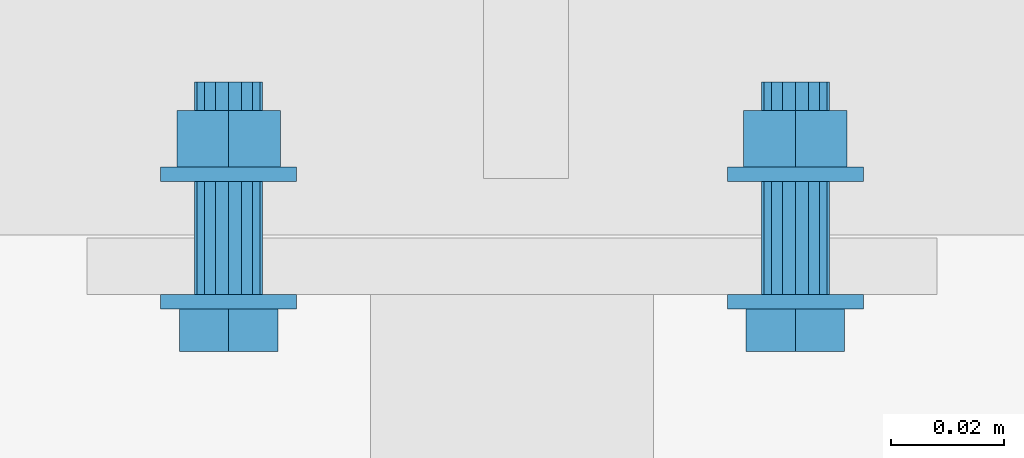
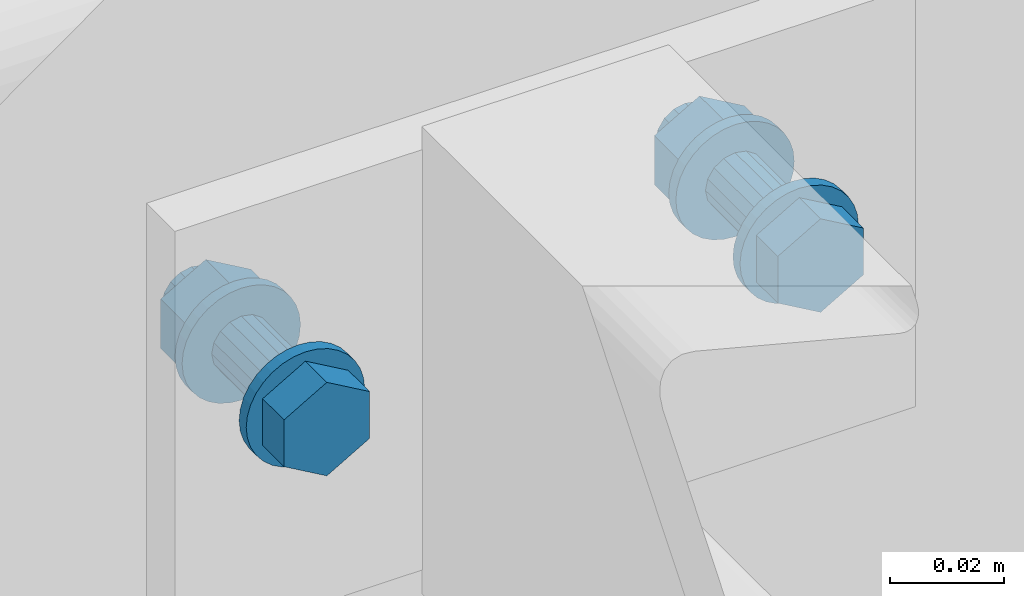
# One storey, part 350 of 821: 1 mechanical fastener.
"""IFC2X3 building model written with IfcOpenShell, lengths in millimetres."""

from ifc_helpers import new_model, entity, si_unit, converted_unit, origin_with_axes, place, context, project, spatial, faceted_brep, element, save


model = new_model("IFC2X3")

# Units and contexts
model_context = context("Model", 3, precision=1e-09, world=origin_with_axes())
ifc_project = project(units=[si_unit("LENGTHUNIT", "METRE", prefix="MILLI"), si_unit("AREAUNIT", "SQUARE_METRE"), si_unit("VOLUMEUNIT", "CUBIC_METRE"), converted_unit("PLANEANGLEUNIT", "DEGREE", entity("IfcPlaneAngleMeasure", 0.01745329), si_unit("PLANEANGLEUNIT", "RADIAN"), dimensions=[0, 0, 0, 0, 0, 0, 0])], contexts=[model_context])

# Site, building, storey
site_placement = place(None, origin_with_axes())
site = spatial("IfcSite", under=ifc_project, at=site_placement, Name="Cnopf'sche Kinderklinik", CompositionType="ELEMENT")
building_placement = place(site_placement, origin_with_axes())
building = spatial("IfcBuilding", under=site, at=building_placement, Name="Struktur 1", CompositionType="ELEMENT")
storey_placement = place(building_placement, origin_with_axes())
storey = spatial("IfcBuildingStorey", under=building, at=storey_placement, Name="Default Storey", CompositionType="ELEMENT", Elevation=0.0)

# Mechanical fastener
mechanical_fastener_placement = place(None, origin_with_axes())
element("IfcMechanicalFastener", 1, at=mechanical_fastener_placement, inside=storey, ObjectType="-", NominalDiameter=12.0, NominalLength=40.0, context=model_context, shape_type="Brep", body=[
    faceted_brep([(4489.713402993, 7293.736971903, 3747.0), (4489.713402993, 7296.236971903, 3747.0), (4489.943979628, 7296.236971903, 3744.658916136), (4489.943979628, 7293.736971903, 3744.658916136), (4490.626848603, 7296.236971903, 3742.407798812), (4490.626848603, 7293.736971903, 3742.407798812), (4491.735767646, 7296.236971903, 3740.333157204), (4491.735767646, 7293.736971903, 3740.333157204), (4493.228121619, 7296.236971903, 3738.514718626), (4493.228121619, 7293.736971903, 3738.514718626), (4495.046560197, 7296.236971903, 3737.022364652), (4495.046560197, 7293.736971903, 3737.022364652), (4497.121201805, 7296.236971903, 3735.91344561), (4497.121201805, 7293.736971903, 3735.91344561), (4499.372319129, 7296.236971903, 3735.230576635), (4499.372319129, 7293.736971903, 3735.230576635), (4501.713402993, 7296.236971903, 3735.0), (4501.713402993, 7293.736971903, 3735.0), (4504.054486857, 7296.236971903, 3735.230576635), (4504.054486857, 7293.736971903, 3735.230576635), (4506.305604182, 7296.236971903, 3735.91344561), (4506.305604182, 7293.736971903, 3735.91344561), (4508.380245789, 7296.236971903, 3737.022364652), (4508.380245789, 7293.736971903, 3737.022364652), (4510.198684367, 7296.236971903, 3738.514718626), (4510.198684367, 7293.736971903, 3738.514718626), (4511.691038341, 7296.236971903, 3740.333157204), (4511.691038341, 7293.736971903, 3740.333157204), (4512.799957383, 7296.236971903, 3742.407798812), (4512.799957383, 7293.736971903, 3742.407798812), (4513.482826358, 7296.236971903, 3744.658916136), (4513.482826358, 7293.736971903, 3744.658916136), (4513.713402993, 7296.236971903, 3747.0), (4513.713402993, 7293.736971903, 3747.0), (4513.482826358, 7296.236971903, 3749.341083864), (4513.482826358, 7293.736971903, 3749.341083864), (4512.799957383, 7296.236971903, 3751.592201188), (4512.799957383, 7293.736971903, 3751.592201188), (4511.691038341, 7296.236971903, 3753.666842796), (4511.691038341, 7293.736971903, 3753.666842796), (4510.198684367, 7296.236971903, 3755.485281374), (4510.198684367, 7293.736971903, 3755.485281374), (4508.380245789, 7296.236971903, 3756.977635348), (4508.380245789, 7293.736971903, 3756.977635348), (4506.305604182, 7296.236971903, 3758.08655439), (4506.305604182, 7293.736971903, 3758.08655439), (4504.054486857, 7296.236971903, 3758.769423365), (4504.054486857, 7293.736971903, 3758.769423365), (4501.713402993, 7296.236971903, 3759.0), (4501.713402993, 7293.736971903, 3759.0), (4499.372319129, 7296.236971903, 3758.769423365), (4499.372319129, 7293.736971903, 3758.769423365), (4497.121201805, 7296.236971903, 3758.08655439), (4497.121201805, 7293.736971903, 3758.08655439), (4495.046560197, 7296.236971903, 3756.977635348), (4495.046560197, 7293.736971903, 3756.977635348), (4493.228121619, 7296.236971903, 3755.485281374), (4493.228121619, 7293.736971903, 3755.485281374), (4491.735767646, 7296.236971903, 3753.666842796), (4491.735767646, 7293.736971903, 3753.666842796), (4490.626848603, 7296.236971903, 3751.592201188), (4490.626848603, 7293.736971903, 3751.592201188), (4489.943979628, 7296.236971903, 3749.341083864), (4489.943979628, 7293.736971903, 3749.341083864)], [[[0, 1, 2, 3]], [[3, 2, 4, 5]], [[5, 4, 6, 7]], [[7, 6, 8, 9]], [[9, 8, 10, 11]], [[11, 10, 12, 13]], [[13, 12, 14, 15]], [[15, 14, 16, 17]], [[17, 16, 18, 19]], [[19, 18, 20, 21]], [[21, 20, 22, 23]], [[23, 22, 24, 25]], [[25, 24, 26, 27]], [[27, 26, 28, 29]], [[29, 28, 30, 31]], [[31, 30, 32, 33]], [[33, 32, 34, 35]], [[35, 34, 36, 37]], [[37, 36, 38, 39]], [[39, 38, 40, 41]], [[41, 40, 42, 43]], [[43, 42, 44, 45]], [[45, 44, 46, 47]], [[47, 46, 48, 49]], [[49, 48, 50, 51]], [[51, 50, 52, 53]], [[53, 52, 54, 55]], [[55, 54, 56, 57]], [[57, 56, 58, 59]], [[59, 58, 60, 61]], [[61, 60, 62, 63]], [[63, 62, 1, 0]], [[0, 3, 5, 7, 9, 11, 13, 15, 17, 19, 21, 23, 25, 27, 29, 31, 33, 35, 37, 39, 41, 43, 45, 47, 49, 51, 53, 55, 57, 59, 61, 63]], [[1, 62, 60, 58, 56, 54, 52, 50, 48, 46, 44, 42, 40, 38, 36, 34, 32, 30, 28, 26, 24, 22, 20, 18, 16, 14, 12, 10, 8, 6, 4, 2]]]),
    faceted_brep([(4389.713402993, 7293.736971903, 3747.0), (4389.713402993, 7296.236971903, 3747.0), (4389.943979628, 7296.236971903, 3744.658916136), (4389.943979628, 7293.736971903, 3744.658916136), (4390.626848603, 7296.236971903, 3742.407798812), (4390.626848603, 7293.736971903, 3742.407798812), (4391.735767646, 7296.236971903, 3740.333157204), (4391.735767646, 7293.736971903, 3740.333157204), (4393.228121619, 7296.236971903, 3738.514718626), (4393.228121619, 7293.736971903, 3738.514718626), (4395.046560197, 7296.236971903, 3737.022364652), (4395.046560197, 7293.736971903, 3737.022364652), (4397.121201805, 7296.236971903, 3735.91344561), (4397.121201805, 7293.736971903, 3735.91344561), (4399.372319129, 7296.236971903, 3735.230576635), (4399.372319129, 7293.736971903, 3735.230576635), (4401.713402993, 7296.236971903, 3735.0), (4401.713402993, 7293.736971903, 3735.0), (4404.054486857, 7296.236971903, 3735.230576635), (4404.054486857, 7293.736971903, 3735.230576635), (4406.305604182, 7296.236971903, 3735.91344561), (4406.305604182, 7293.736971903, 3735.91344561), (4408.380245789, 7296.236971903, 3737.022364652), (4408.380245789, 7293.736971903, 3737.022364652), (4410.198684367, 7296.236971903, 3738.514718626), (4410.198684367, 7293.736971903, 3738.514718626), (4411.691038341, 7296.236971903, 3740.333157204), (4411.691038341, 7293.736971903, 3740.333157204), (4412.799957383, 7296.236971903, 3742.407798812), (4412.799957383, 7293.736971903, 3742.407798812), (4413.482826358, 7296.236971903, 3744.658916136), (4413.482826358, 7293.736971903, 3744.658916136), (4413.713402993, 7296.236971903, 3747.0), (4413.713402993, 7293.736971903, 3747.0), (4413.482826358, 7296.236971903, 3749.341083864), (4413.482826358, 7293.736971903, 3749.341083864), (4412.799957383, 7296.236971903, 3751.592201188), (4412.799957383, 7293.736971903, 3751.592201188), (4411.691038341, 7296.236971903, 3753.666842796), (4411.691038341, 7293.736971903, 3753.666842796), (4410.198684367, 7296.236971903, 3755.485281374), (4410.198684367, 7293.736971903, 3755.485281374), (4408.380245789, 7296.236971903, 3756.977635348), (4408.380245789, 7293.736971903, 3756.977635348), (4406.305604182, 7296.236971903, 3758.08655439), (4406.305604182, 7293.736971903, 3758.08655439), (4404.054486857, 7296.236971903, 3758.769423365), (4404.054486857, 7293.736971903, 3758.769423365), (4401.713402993, 7296.236971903, 3759.0), (4401.713402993, 7293.736971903, 3759.0), (4399.372319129, 7296.236971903, 3758.769423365), (4399.372319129, 7293.736971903, 3758.769423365), (4397.121201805, 7296.236971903, 3758.08655439), (4397.121201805, 7293.736971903, 3758.08655439), (4395.046560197, 7296.236971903, 3756.977635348), (4395.046560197, 7293.736971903, 3756.977635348), (4393.228121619, 7296.236971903, 3755.485281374), (4393.228121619, 7293.736971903, 3755.485281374), (4391.735767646, 7296.236971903, 3753.666842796), (4391.735767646, 7293.736971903, 3753.666842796), (4390.626848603, 7296.236971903, 3751.592201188), (4390.626848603, 7293.736971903, 3751.592201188), (4389.943979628, 7296.236971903, 3749.341083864), (4389.943979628, 7293.736971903, 3749.341083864)], [[[0, 1, 2, 3]], [[3, 2, 4, 5]], [[5, 4, 6, 7]], [[7, 6, 8, 9]], [[9, 8, 10, 11]], [[11, 10, 12, 13]], [[13, 12, 14, 15]], [[15, 14, 16, 17]], [[17, 16, 18, 19]], [[19, 18, 20, 21]], [[21, 20, 22, 23]], [[23, 22, 24, 25]], [[25, 24, 26, 27]], [[27, 26, 28, 29]], [[29, 28, 30, 31]], [[31, 30, 32, 33]], [[33, 32, 34, 35]], [[35, 34, 36, 37]], [[37, 36, 38, 39]], [[39, 38, 40, 41]], [[41, 40, 42, 43]], [[43, 42, 44, 45]], [[45, 44, 46, 47]], [[47, 46, 48, 49]], [[49, 48, 50, 51]], [[51, 50, 52, 53]], [[53, 52, 54, 55]], [[55, 54, 56, 57]], [[57, 56, 58, 59]], [[59, 58, 60, 61]], [[61, 60, 62, 63]], [[63, 62, 1, 0]], [[0, 3, 5, 7, 9, 11, 13, 15, 17, 19, 21, 23, 25, 27, 29, 31, 33, 35, 37, 39, 41, 43, 45, 47, 49, 51, 53, 55, 57, 59, 61, 63]], [[1, 62, 60, 58, 56, 54, 52, 50, 48, 46, 44, 42, 40, 38, 36, 34, 32, 30, 28, 26, 24, 22, 20, 18, 16, 14, 12, 10, 8, 6, 4, 2]]]),
    faceted_brep([(4510.386647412, 7293.736971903, 3741.9925), (4510.386647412, 7286.236971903, 3741.9925), (4501.713402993, 7286.236971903, 3736.985), (4501.713402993, 7293.736971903, 3736.985), (4493.040158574, 7286.236971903, 3741.9925), (4493.040158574, 7293.736971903, 3741.9925), (4493.040158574, 7286.236971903, 3752.0075), (4493.040158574, 7293.736971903, 3752.0075), (4501.713402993, 7286.236971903, 3757.015), (4501.713402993, 7293.736971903, 3757.015), (4510.386647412, 7286.236971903, 3752.0075), (4510.386647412, 7293.736971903, 3752.0075)], [[[0, 1, 2, 3]], [[3, 2, 4, 5]], [[5, 4, 6, 7]], [[7, 6, 8, 9]], [[9, 8, 10, 11]], [[11, 10, 1, 0]], [[4, 2, 1, 10, 8, 6]], [[0, 3, 5, 7, 9, 11]]]),
    faceted_brep([(4410.386647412, 7293.736971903, 3741.9925), (4410.386647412, 7286.236971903, 3741.9925), (4401.713402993, 7286.236971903, 3736.985), (4401.713402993, 7293.736971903, 3736.985), (4393.040158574, 7286.236971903, 3741.9925), (4393.040158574, 7293.736971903, 3741.9925), (4393.040158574, 7286.236971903, 3752.0075), (4393.040158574, 7293.736971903, 3752.0075), (4401.713402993, 7286.236971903, 3757.015), (4401.713402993, 7293.736971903, 3757.015), (4410.386647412, 7286.236971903, 3752.0075), (4410.386647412, 7293.736971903, 3752.0075)], [[[0, 1, 2, 3]], [[3, 2, 4, 5]], [[5, 4, 6, 7]], [[7, 6, 8, 9]], [[9, 8, 10, 11]], [[11, 10, 1, 0]], [[4, 2, 1, 10, 8, 6]], [[0, 3, 5, 7, 9, 11]]]),
    faceted_brep([(4495.713402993, 7296.236971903, 3747.0), (4495.713402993, 7316.236971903, 3747.0), (4496.170125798, 7316.236971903, 3744.703899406), (4496.170125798, 7296.236971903, 3744.703899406), (4497.470762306, 7316.236971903, 3742.757359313), (4497.470762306, 7296.236971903, 3742.757359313), (4499.417302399, 7316.236971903, 3741.456722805), (4499.417302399, 7296.236971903, 3741.456722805), (4501.713402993, 7316.236971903, 3741.0), (4501.713402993, 7296.236971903, 3741.0), (4504.009503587, 7316.236971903, 3741.456722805), (4504.009503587, 7296.236971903, 3741.456722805), (4505.95604368, 7316.236971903, 3742.757359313), (4505.95604368, 7296.236971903, 3742.757359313), (4507.256680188, 7316.236971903, 3744.703899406), (4507.256680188, 7296.236971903, 3744.703899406), (4507.713402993, 7316.236971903, 3747.0), (4507.713402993, 7296.236971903, 3747.0), (4507.256680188, 7316.236971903, 3749.296100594), (4507.256680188, 7296.236971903, 3749.296100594), (4505.95604368, 7316.236971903, 3751.242640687), (4505.95604368, 7296.236971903, 3751.242640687), (4504.009503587, 7316.236971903, 3752.543277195), (4504.009503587, 7296.236971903, 3752.543277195), (4501.713402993, 7316.236971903, 3753.0), (4501.713402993, 7296.236971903, 3753.0), (4499.417302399, 7316.236971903, 3752.543277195), (4499.417302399, 7296.236971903, 3752.543277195), (4497.470762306, 7316.236971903, 3751.242640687), (4497.470762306, 7296.236971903, 3751.242640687), (4496.170125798, 7316.236971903, 3749.296100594), (4496.170125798, 7296.236971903, 3749.296100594)], [[[0, 1, 2, 3]], [[3, 2, 4, 5]], [[5, 4, 6, 7]], [[7, 6, 8, 9]], [[9, 8, 10, 11]], [[11, 10, 12, 13]], [[13, 12, 14, 15]], [[15, 14, 16, 17]], [[17, 16, 18, 19]], [[19, 18, 20, 21]], [[21, 20, 22, 23]], [[23, 22, 24, 25]], [[25, 24, 26, 27]], [[27, 26, 28, 29]], [[29, 28, 30, 31]], [[31, 30, 1, 0]], [[0, 3, 5, 7, 9, 11, 13, 15, 17, 19, 21, 23, 25, 27, 29, 31]], [[1, 30, 28, 26, 24, 22, 20, 18, 16, 14, 12, 10, 8, 6, 4, 2]]]),
    faceted_brep([(4395.713402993, 7296.236971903, 3747.0), (4395.713402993, 7316.236971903, 3747.0), (4396.170125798, 7316.236971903, 3744.703899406), (4396.170125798, 7296.236971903, 3744.703899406), (4397.470762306, 7316.236971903, 3742.757359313), (4397.470762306, 7296.236971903, 3742.757359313), (4399.417302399, 7316.236971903, 3741.456722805), (4399.417302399, 7296.236971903, 3741.456722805), (4401.713402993, 7316.236971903, 3741.0), (4401.713402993, 7296.236971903, 3741.0), (4404.009503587, 7316.236971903, 3741.456722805), (4404.009503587, 7296.236971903, 3741.456722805), (4405.95604368, 7316.236971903, 3742.757359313), (4405.95604368, 7296.236971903, 3742.757359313), (4407.256680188, 7316.236971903, 3744.703899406), (4407.256680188, 7296.236971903, 3744.703899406), (4407.713402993, 7316.236971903, 3747.0), (4407.713402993, 7296.236971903, 3747.0), (4407.256680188, 7316.236971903, 3749.296100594), (4407.256680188, 7296.236971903, 3749.296100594), (4405.95604368, 7316.236971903, 3751.242640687), (4405.95604368, 7296.236971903, 3751.242640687), (4404.009503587, 7316.236971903, 3752.543277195), (4404.009503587, 7296.236971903, 3752.543277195), (4401.713402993, 7316.236971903, 3753.0), (4401.713402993, 7296.236971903, 3753.0), (4399.417302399, 7316.236971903, 3752.543277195), (4399.417302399, 7296.236971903, 3752.543277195), (4397.470762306, 7316.236971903, 3751.242640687), (4397.470762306, 7296.236971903, 3751.242640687), (4396.170125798, 7316.236971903, 3749.296100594), (4396.170125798, 7296.236971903, 3749.296100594)], [[[0, 1, 2, 3]], [[3, 2, 4, 5]], [[5, 4, 6, 7]], [[7, 6, 8, 9]], [[9, 8, 10, 11]], [[11, 10, 12, 13]], [[13, 12, 14, 15]], [[15, 14, 16, 17]], [[17, 16, 18, 19]], [[19, 18, 20, 21]], [[21, 20, 22, 23]], [[23, 22, 24, 25]], [[25, 24, 26, 27]], [[27, 26, 28, 29]], [[29, 28, 30, 31]], [[31, 30, 1, 0]], [[0, 3, 5, 7, 9, 11, 13, 15, 17, 19, 21, 23, 25, 27, 29, 31]], [[1, 30, 28, 26, 24, 22, 20, 18, 16, 14, 12, 10, 8, 6, 4, 2]]]),
    faceted_brep([(4489.713402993, 7316.236971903, 3747.0), (4489.713402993, 7318.736971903, 3747.0), (4489.943979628, 7318.736971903, 3744.658916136), (4489.943979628, 7316.236971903, 3744.658916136), (4490.626848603, 7318.736971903, 3742.407798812), (4490.626848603, 7316.236971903, 3742.407798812), (4491.735767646, 7318.736971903, 3740.333157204), (4491.735767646, 7316.236971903, 3740.333157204), (4493.228121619, 7318.736971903, 3738.514718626), (4493.228121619, 7316.236971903, 3738.514718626), (4495.046560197, 7318.736971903, 3737.022364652), (4495.046560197, 7316.236971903, 3737.022364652), (4497.121201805, 7318.736971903, 3735.91344561), (4497.121201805, 7316.236971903, 3735.91344561), (4499.372319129, 7318.736971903, 3735.230576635), (4499.372319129, 7316.236971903, 3735.230576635), (4501.713402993, 7318.736971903, 3735.0), (4501.713402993, 7316.236971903, 3735.0), (4504.054486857, 7318.736971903, 3735.230576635), (4504.054486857, 7316.236971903, 3735.230576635), (4506.305604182, 7318.736971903, 3735.91344561), (4506.305604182, 7316.236971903, 3735.91344561), (4508.380245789, 7318.736971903, 3737.022364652), (4508.380245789, 7316.236971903, 3737.022364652), (4510.198684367, 7318.736971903, 3738.514718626), (4510.198684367, 7316.236971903, 3738.514718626), (4511.691038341, 7318.736971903, 3740.333157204), (4511.691038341, 7316.236971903, 3740.333157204), (4512.799957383, 7318.736971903, 3742.407798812), (4512.799957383, 7316.236971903, 3742.407798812), (4513.482826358, 7318.736971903, 3744.658916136), (4513.482826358, 7316.236971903, 3744.658916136), (4513.713402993, 7318.736971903, 3747.0), (4513.713402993, 7316.236971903, 3747.0), (4513.482826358, 7318.736971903, 3749.341083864), (4513.482826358, 7316.236971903, 3749.341083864), (4512.799957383, 7318.736971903, 3751.592201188), (4512.799957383, 7316.236971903, 3751.592201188), (4511.691038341, 7318.736971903, 3753.666842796), (4511.691038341, 7316.236971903, 3753.666842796), (4510.198684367, 7318.736971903, 3755.485281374), (4510.198684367, 7316.236971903, 3755.485281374), (4508.380245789, 7318.736971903, 3756.977635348), (4508.380245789, 7316.236971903, 3756.977635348), (4506.305604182, 7318.736971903, 3758.08655439), (4506.305604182, 7316.236971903, 3758.08655439), (4504.054486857, 7318.736971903, 3758.769423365), (4504.054486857, 7316.236971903, 3758.769423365), (4501.713402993, 7318.736971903, 3759.0), (4501.713402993, 7316.236971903, 3759.0), (4499.372319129, 7318.736971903, 3758.769423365), (4499.372319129, 7316.236971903, 3758.769423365), (4497.121201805, 7318.736971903, 3758.08655439), (4497.121201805, 7316.236971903, 3758.08655439), (4495.046560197, 7318.736971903, 3756.977635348), (4495.046560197, 7316.236971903, 3756.977635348), (4493.228121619, 7318.736971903, 3755.485281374), (4493.228121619, 7316.236971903, 3755.485281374), (4491.735767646, 7318.736971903, 3753.666842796), (4491.735767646, 7316.236971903, 3753.666842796), (4490.626848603, 7318.736971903, 3751.592201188), (4490.626848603, 7316.236971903, 3751.592201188), (4489.943979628, 7318.736971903, 3749.341083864), (4489.943979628, 7316.236971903, 3749.341083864)], [[[0, 1, 2, 3]], [[3, 2, 4, 5]], [[5, 4, 6, 7]], [[7, 6, 8, 9]], [[9, 8, 10, 11]], [[11, 10, 12, 13]], [[13, 12, 14, 15]], [[15, 14, 16, 17]], [[17, 16, 18, 19]], [[19, 18, 20, 21]], [[21, 20, 22, 23]], [[23, 22, 24, 25]], [[25, 24, 26, 27]], [[27, 26, 28, 29]], [[29, 28, 30, 31]], [[31, 30, 32, 33]], [[33, 32, 34, 35]], [[35, 34, 36, 37]], [[37, 36, 38, 39]], [[39, 38, 40, 41]], [[41, 40, 42, 43]], [[43, 42, 44, 45]], [[45, 44, 46, 47]], [[47, 46, 48, 49]], [[49, 48, 50, 51]], [[51, 50, 52, 53]], [[53, 52, 54, 55]], [[55, 54, 56, 57]], [[57, 56, 58, 59]], [[59, 58, 60, 61]], [[61, 60, 62, 63]], [[63, 62, 1, 0]], [[0, 3, 5, 7, 9, 11, 13, 15, 17, 19, 21, 23, 25, 27, 29, 31, 33, 35, 37, 39, 41, 43, 45, 47, 49, 51, 53, 55, 57, 59, 61, 63]], [[1, 62, 60, 58, 56, 54, 52, 50, 48, 46, 44, 42, 40, 38, 36, 34, 32, 30, 28, 26, 24, 22, 20, 18, 16, 14, 12, 10, 8, 6, 4, 2]]]),
    faceted_brep([(4389.713402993, 7316.236971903, 3747.0), (4389.713402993, 7318.736971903, 3747.0), (4389.943979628, 7318.736971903, 3744.658916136), (4389.943979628, 7316.236971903, 3744.658916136), (4390.626848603, 7318.736971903, 3742.407798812), (4390.626848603, 7316.236971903, 3742.407798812), (4391.735767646, 7318.736971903, 3740.333157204), (4391.735767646, 7316.236971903, 3740.333157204), (4393.228121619, 7318.736971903, 3738.514718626), (4393.228121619, 7316.236971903, 3738.514718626), (4395.046560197, 7318.736971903, 3737.022364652), (4395.046560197, 7316.236971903, 3737.022364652), (4397.121201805, 7318.736971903, 3735.91344561), (4397.121201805, 7316.236971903, 3735.91344561), (4399.372319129, 7318.736971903, 3735.230576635), (4399.372319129, 7316.236971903, 3735.230576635), (4401.713402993, 7318.736971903, 3735.0), (4401.713402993, 7316.236971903, 3735.0), (4404.054486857, 7318.736971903, 3735.230576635), (4404.054486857, 7316.236971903, 3735.230576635), (4406.305604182, 7318.736971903, 3735.91344561), (4406.305604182, 7316.236971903, 3735.91344561), (4408.380245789, 7318.736971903, 3737.022364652), (4408.380245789, 7316.236971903, 3737.022364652), (4410.198684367, 7318.736971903, 3738.514718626), (4410.198684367, 7316.236971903, 3738.514718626), (4411.691038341, 7318.736971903, 3740.333157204), (4411.691038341, 7316.236971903, 3740.333157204), (4412.799957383, 7318.736971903, 3742.407798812), (4412.799957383, 7316.236971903, 3742.407798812), (4413.482826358, 7318.736971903, 3744.658916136), (4413.482826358, 7316.236971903, 3744.658916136), (4413.713402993, 7318.736971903, 3747.0), (4413.713402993, 7316.236971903, 3747.0), (4413.482826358, 7318.736971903, 3749.341083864), (4413.482826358, 7316.236971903, 3749.341083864), (4412.799957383, 7318.736971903, 3751.592201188), (4412.799957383, 7316.236971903, 3751.592201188), (4411.691038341, 7318.736971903, 3753.666842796), (4411.691038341, 7316.236971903, 3753.666842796), (4410.198684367, 7318.736971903, 3755.485281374), (4410.198684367, 7316.236971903, 3755.485281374), (4408.380245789, 7318.736971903, 3756.977635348), (4408.380245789, 7316.236971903, 3756.977635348), (4406.305604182, 7318.736971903, 3758.08655439), (4406.305604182, 7316.236971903, 3758.08655439), (4404.054486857, 7318.736971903, 3758.769423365), (4404.054486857, 7316.236971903, 3758.769423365), (4401.713402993, 7318.736971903, 3759.0), (4401.713402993, 7316.236971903, 3759.0), (4399.372319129, 7318.736971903, 3758.769423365), (4399.372319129, 7316.236971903, 3758.769423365), (4397.121201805, 7318.736971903, 3758.08655439), (4397.121201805, 7316.236971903, 3758.08655439), (4395.046560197, 7318.736971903, 3756.977635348), (4395.046560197, 7316.236971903, 3756.977635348), (4393.228121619, 7318.736971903, 3755.485281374), (4393.228121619, 7316.236971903, 3755.485281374), (4391.735767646, 7318.736971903, 3753.666842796), (4391.735767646, 7316.236971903, 3753.666842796), (4390.626848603, 7318.736971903, 3751.592201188), (4390.626848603, 7316.236971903, 3751.592201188), (4389.943979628, 7318.736971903, 3749.341083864), (4389.943979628, 7316.236971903, 3749.341083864)], [[[0, 1, 2, 3]], [[3, 2, 4, 5]], [[5, 4, 6, 7]], [[7, 6, 8, 9]], [[9, 8, 10, 11]], [[11, 10, 12, 13]], [[13, 12, 14, 15]], [[15, 14, 16, 17]], [[17, 16, 18, 19]], [[19, 18, 20, 21]], [[21, 20, 22, 23]], [[23, 22, 24, 25]], [[25, 24, 26, 27]], [[27, 26, 28, 29]], [[29, 28, 30, 31]], [[31, 30, 32, 33]], [[33, 32, 34, 35]], [[35, 34, 36, 37]], [[37, 36, 38, 39]], [[39, 38, 40, 41]], [[41, 40, 42, 43]], [[43, 42, 44, 45]], [[45, 44, 46, 47]], [[47, 46, 48, 49]], [[49, 48, 50, 51]], [[51, 50, 52, 53]], [[53, 52, 54, 55]], [[55, 54, 56, 57]], [[57, 56, 58, 59]], [[59, 58, 60, 61]], [[61, 60, 62, 63]], [[63, 62, 1, 0]], [[0, 3, 5, 7, 9, 11, 13, 15, 17, 19, 21, 23, 25, 27, 29, 31, 33, 35, 37, 39, 41, 43, 45, 47, 49, 51, 53, 55, 57, 59, 61, 63]], [[1, 62, 60, 58, 56, 54, 52, 50, 48, 46, 44, 42, 40, 38, 36, 34, 32, 30, 28, 26, 24, 22, 20, 18, 16, 14, 12, 10, 8, 6, 4, 2]]]),
    faceted_brep([(4510.849971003, 7328.736971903, 3741.725), (4510.849971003, 7318.736971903, 3741.725), (4501.713402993, 7318.736971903, 3736.45), (4501.713402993, 7328.736971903, 3736.45), (4492.576834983, 7318.736971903, 3741.725), (4492.576834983, 7328.736971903, 3741.725), (4492.576834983, 7318.736971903, 3752.275), (4492.576834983, 7328.736971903, 3752.275), (4501.713402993, 7318.736971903, 3757.55), (4501.713402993, 7328.736971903, 3757.55), (4510.849971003, 7318.736971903, 3752.275), (4510.849971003, 7328.736971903, 3752.275)], [[[0, 1, 2, 3]], [[3, 2, 4, 5]], [[5, 4, 6, 7]], [[7, 6, 8, 9]], [[9, 8, 10, 11]], [[11, 10, 1, 0]], [[4, 2, 1, 10, 8, 6]], [[0, 3, 5, 7, 9, 11]]]),
    faceted_brep([(4410.849971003, 7328.736971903, 3741.725), (4410.849971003, 7318.736971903, 3741.725), (4401.713402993, 7318.736971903, 3736.45), (4401.713402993, 7328.736971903, 3736.45), (4392.576834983, 7318.736971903, 3741.725), (4392.576834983, 7328.736971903, 3741.725), (4392.576834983, 7318.736971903, 3752.275), (4392.576834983, 7328.736971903, 3752.275), (4401.713402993, 7318.736971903, 3757.55), (4401.713402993, 7328.736971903, 3757.55), (4410.849971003, 7318.736971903, 3752.275), (4410.849971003, 7328.736971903, 3752.275)], [[[0, 1, 2, 3]], [[3, 2, 4, 5]], [[5, 4, 6, 7]], [[7, 6, 8, 9]], [[9, 8, 10, 11]], [[11, 10, 1, 0]], [[4, 2, 1, 10, 8, 6]], [[0, 3, 5, 7, 9, 11]]]),
    faceted_brep([(4495.713402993, 7328.736971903, 3747.0), (4495.713402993, 7333.736971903, 3747.0), (4496.170125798, 7333.736971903, 3744.703899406), (4496.170125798, 7328.736971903, 3744.703899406), (4497.470762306, 7333.736971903, 3742.757359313), (4497.470762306, 7328.736971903, 3742.757359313), (4499.417302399, 7333.736971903, 3741.456722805), (4499.417302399, 7328.736971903, 3741.456722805), (4501.713402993, 7333.736971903, 3741.0), (4501.713402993, 7328.736971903, 3741.0), (4504.009503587, 7333.736971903, 3741.456722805), (4504.009503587, 7328.736971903, 3741.456722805), (4505.95604368, 7333.736971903, 3742.757359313), (4505.95604368, 7328.736971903, 3742.757359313), (4507.256680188, 7333.736971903, 3744.703899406), (4507.256680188, 7328.736971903, 3744.703899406), (4507.713402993, 7333.736971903, 3747.0), (4507.713402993, 7328.736971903, 3747.0), (4507.256680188, 7333.736971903, 3749.296100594), (4507.256680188, 7328.736971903, 3749.296100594), (4505.95604368, 7333.736971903, 3751.242640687), (4505.95604368, 7328.736971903, 3751.242640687), (4504.009503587, 7333.736971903, 3752.543277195), (4504.009503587, 7328.736971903, 3752.543277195), (4501.713402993, 7333.736971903, 3753.0), (4501.713402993, 7328.736971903, 3753.0), (4499.417302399, 7333.736971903, 3752.543277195), (4499.417302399, 7328.736971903, 3752.543277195), (4497.470762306, 7333.736971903, 3751.242640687), (4497.470762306, 7328.736971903, 3751.242640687), (4496.170125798, 7333.736971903, 3749.296100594), (4496.170125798, 7328.736971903, 3749.296100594)], [[[0, 1, 2, 3]], [[3, 2, 4, 5]], [[5, 4, 6, 7]], [[7, 6, 8, 9]], [[9, 8, 10, 11]], [[11, 10, 12, 13]], [[13, 12, 14, 15]], [[15, 14, 16, 17]], [[17, 16, 18, 19]], [[19, 18, 20, 21]], [[21, 20, 22, 23]], [[23, 22, 24, 25]], [[25, 24, 26, 27]], [[27, 26, 28, 29]], [[29, 28, 30, 31]], [[31, 30, 1, 0]], [[0, 3, 5, 7, 9, 11, 13, 15, 17, 19, 21, 23, 25, 27, 29, 31]], [[1, 30, 28, 26, 24, 22, 20, 18, 16, 14, 12, 10, 8, 6, 4, 2]]]),
    faceted_brep([(4395.713402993, 7328.736971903, 3747.0), (4395.713402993, 7333.736971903, 3747.0), (4396.170125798, 7333.736971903, 3744.703899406), (4396.170125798, 7328.736971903, 3744.703899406), (4397.470762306, 7333.736971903, 3742.757359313), (4397.470762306, 7328.736971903, 3742.757359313), (4399.417302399, 7333.736971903, 3741.456722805), (4399.417302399, 7328.736971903, 3741.456722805), (4401.713402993, 7333.736971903, 3741.0), (4401.713402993, 7328.736971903, 3741.0), (4404.009503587, 7333.736971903, 3741.456722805), (4404.009503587, 7328.736971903, 3741.456722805), (4405.95604368, 7333.736971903, 3742.757359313), (4405.95604368, 7328.736971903, 3742.757359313), (4407.256680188, 7333.736971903, 3744.703899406), (4407.256680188, 7328.736971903, 3744.703899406), (4407.713402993, 7333.736971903, 3747.0), (4407.713402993, 7328.736971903, 3747.0), (4407.256680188, 7333.736971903, 3749.296100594), (4407.256680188, 7328.736971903, 3749.296100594), (4405.95604368, 7333.736971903, 3751.242640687), (4405.95604368, 7328.736971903, 3751.242640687), (4404.009503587, 7333.736971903, 3752.543277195), (4404.009503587, 7328.736971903, 3752.543277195), (4401.713402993, 7333.736971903, 3753.0), (4401.713402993, 7328.736971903, 3753.0), (4399.417302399, 7333.736971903, 3752.543277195), (4399.417302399, 7328.736971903, 3752.543277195), (4397.470762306, 7333.736971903, 3751.242640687), (4397.470762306, 7328.736971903, 3751.242640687), (4396.170125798, 7333.736971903, 3749.296100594), (4396.170125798, 7328.736971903, 3749.296100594)], [[[0, 1, 2, 3]], [[3, 2, 4, 5]], [[5, 4, 6, 7]], [[7, 6, 8, 9]], [[9, 8, 10, 11]], [[11, 10, 12, 13]], [[13, 12, 14, 15]], [[15, 14, 16, 17]], [[17, 16, 18, 19]], [[19, 18, 20, 21]], [[21, 20, 22, 23]], [[23, 22, 24, 25]], [[25, 24, 26, 27]], [[27, 26, 28, 29]], [[29, 28, 30, 31]], [[31, 30, 1, 0]], [[0, 3, 5, 7, 9, 11, 13, 15, 17, 19, 21, 23, 25, 27, 29, 31]], [[1, 30, 28, 26, 24, 22, 20, 18, 16, 14, 12, 10, 8, 6, 4, 2]]]),
])

save(model, "model.ifc")
